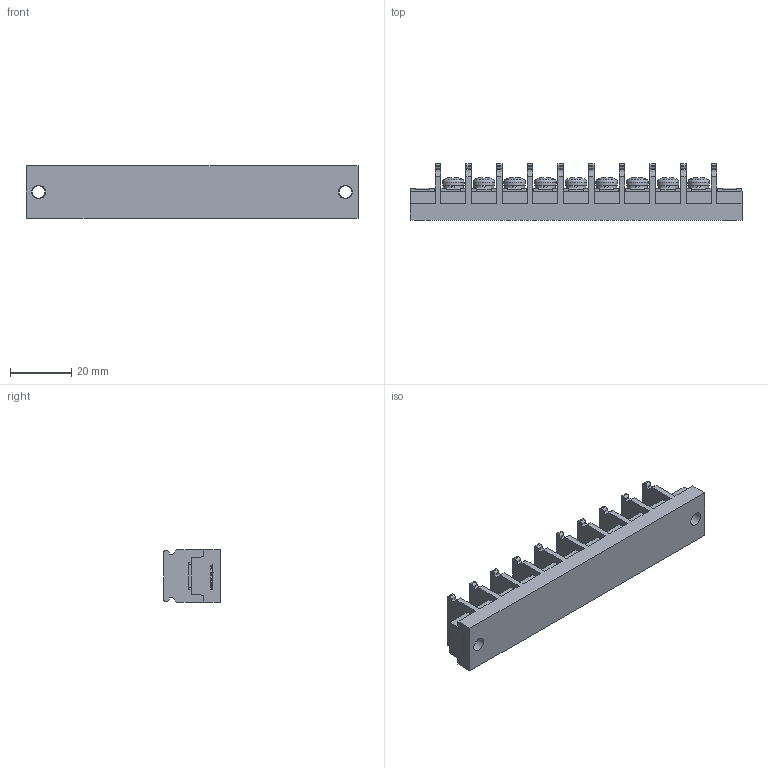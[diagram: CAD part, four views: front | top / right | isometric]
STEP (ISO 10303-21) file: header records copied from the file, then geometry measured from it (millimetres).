
FILE_DESCRIPTION(/* description */ ('Alibre Inc.'),/* implementation_level */ '2;1');
FILE_NAME(/* name */ 'export0',/* time_stamp */ '2015-10-14T19:54:56+09:00',/* author */ (''),/* organization */ (''),/* preprocessor_version */ 'ST-DEVELOPER v14',/* originating_system */ 'Alibre',/* authorisation */ '');
FILE_SCHEMA (('CONFIG_CONTROL_DESIGN'));
Length unit declared in the file: centimetre
Products named in the file (1): ID_1
Bounding box: 108.2 x 18.5 x 17 mm (x, y, z)
Volume: 19680.5 mm3; surface area: 11307.8 mm2
Topology: 1 solids, 17 shells, 1002 faces, 2751 edges, 1825 vertices
Faces by surface type: plane 742, bspline 104, cylinder 93, cone 36, torus 18, sphere 9
Full cylindrical faces by diameter (mm): 4 x11, 4.5 x2, 6.5 x9, 7 x9
Entity records: 30778 total; most frequent: CARTESIAN_POINT 6708, ORIENTED_EDGE 5368, DIRECTION 3914, EDGE_CURVE 2684, VECTOR 1950, LINE 1950, VERTEX_POINT 1798, AXIS2_PLACEMENT_3D 1352
